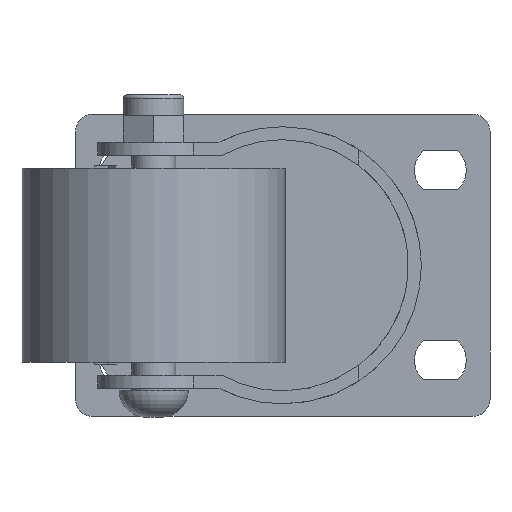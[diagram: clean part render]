
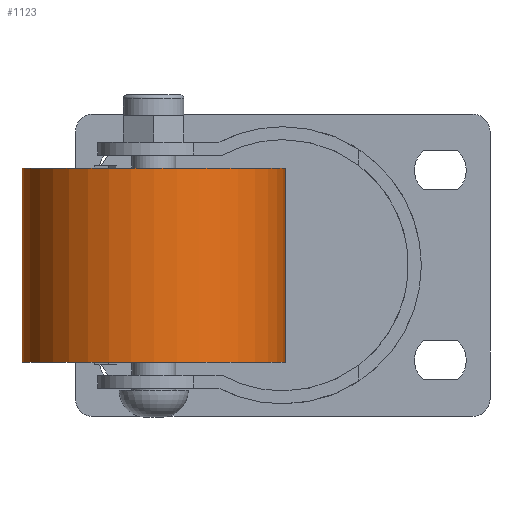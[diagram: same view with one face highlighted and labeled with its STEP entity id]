
A CAD part, front view. The second image highlights one B-rep face of the part: STEP entity #1123.
In plain terms, the highlighted cylindrical face has radius 30.5 mm (diameter 61 mm), a partial arc.
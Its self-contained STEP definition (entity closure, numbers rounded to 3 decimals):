
#520 = VERTEX_POINT ( 'NONE', #2964 ) ;
#533 = VERTEX_POINT ( 'NONE', #2977 ) ;
#553 = VERTEX_POINT ( 'NONE', #2996 ) ;
#657 = VERTEX_POINT ( 'NONE', #3078 ) ;
#756 = AXIS2_PLACEMENT_3D ( 'NONE', #2726, #2727, #2728 ) ;
#771 = AXIS2_PLACEMENT_3D ( 'NONE', #2758, #2759, #2760 ) ;
#1123 = ADVANCED_FACE ( 'NONE', ( #1614 ), #1608, .T. ) ;
#1608 = CYLINDRICAL_SURFACE ( 'NONE', #1739, 30.5 ) ;
#1614 = FACE_OUTER_BOUND ( 'NONE', #2131, .T. ) ;
#1739 = AXIS2_PLACEMENT_3D ( 'NONE', #3258, #3257, #3251 ) ;
#1847 = EDGE_CURVE ( 'NONE', #657, #533, #2584, .T. ) ;
#1848 = EDGE_CURVE ( 'NONE', #520, #553, #2585, .T. ) ;
#1850 = EDGE_CURVE ( 'NONE', #533, #520, #2582, .T. ) ;
#1862 = EDGE_CURVE ( 'NONE', #657, #553, #2563, .T. ) ;
#2131 = EDGE_LOOP ( 'NONE', ( #2188, #2185, #2186, #2183 ) ) ;
#2183 = ORIENTED_EDGE ( 'NONE', *, *, #1848, .T. ) ;
#2185 = ORIENTED_EDGE ( 'NONE', *, *, #1847, .T. ) ;
#2186 = ORIENTED_EDGE ( 'NONE', *, *, #1850, .T. ) ;
#2188 = ORIENTED_EDGE ( 'NONE', *, *, #1862, .F. ) ;
#2563 = CIRCLE ( 'NONE', #771, 30.5 ) ;
#2579 = VECTOR ( 'NONE', #2720, 1000. ) ;
#2581 = VECTOR ( 'NONE', #2719, 1000. ) ;
#2582 = CIRCLE ( 'NONE', #756, 30.5 ) ;
#2584 = LINE ( 'NONE', #2718, #2581 ) ;
#2585 = LINE ( 'NONE', #2713, #2579 ) ;
#2713 = CARTESIAN_POINT ( 'NONE',  ( 221.115, 123.133, -35. ) ) ;
#2718 = CARTESIAN_POINT ( 'NONE',  ( 282.115, 123.133, -35. ) ) ;
#2719 = DIRECTION ( 'NONE',  ( 0., 0., 1. ) ) ;
#2720 = DIRECTION ( 'NONE',  ( 0., 0., -1. ) ) ;
#2726 = CARTESIAN_POINT ( 'NONE',  ( 251.615, 123.133, -12.5 ) ) ;
#2727 = DIRECTION ( 'NONE',  ( 0., 0., -1. ) ) ;
#2728 = DIRECTION ( 'NONE',  ( 1., 0., 0. ) ) ;
#2758 = CARTESIAN_POINT ( 'NONE',  ( 251.615, 123.133, -57.5 ) ) ;
#2759 = DIRECTION ( 'NONE',  ( 0., 0., -1. ) ) ;
#2760 = DIRECTION ( 'NONE',  ( 1., 0., 0. ) ) ;
#2964 = CARTESIAN_POINT ( 'NONE',  ( 221.115, 123.133, -12.5 ) ) ;
#2977 = CARTESIAN_POINT ( 'NONE',  ( 282.115, 123.133, -12.5 ) ) ;
#2996 = CARTESIAN_POINT ( 'NONE',  ( 221.115, 123.133, -57.5 ) ) ;
#3078 = CARTESIAN_POINT ( 'NONE',  ( 282.115, 123.133, -57.5 ) ) ;
#3251 = DIRECTION ( 'NONE',  ( 1., 0., 0. ) ) ;
#3257 = DIRECTION ( 'NONE',  ( 0., 0., 1. ) ) ;
#3258 = CARTESIAN_POINT ( 'NONE',  ( 251.615, 123.133, -57.5 ) ) ;
